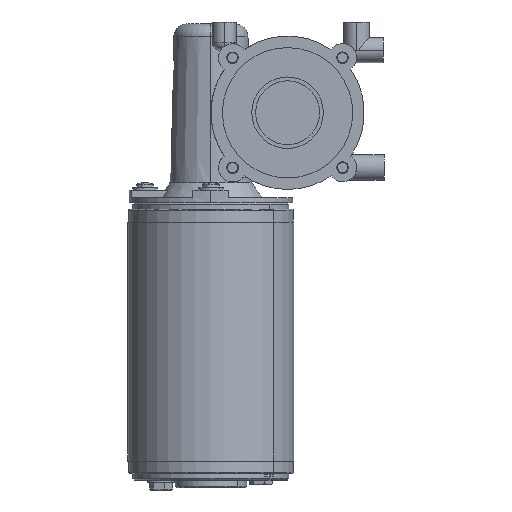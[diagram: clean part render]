
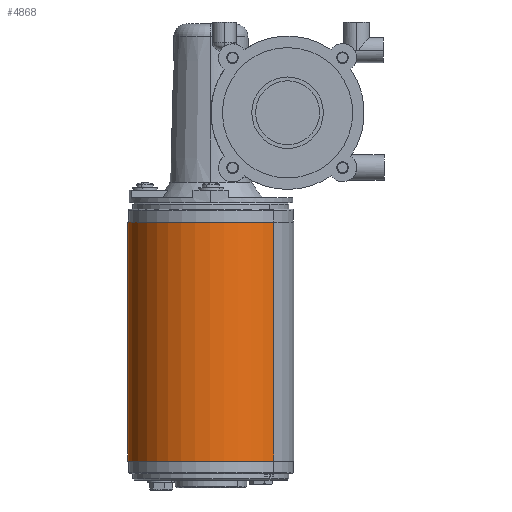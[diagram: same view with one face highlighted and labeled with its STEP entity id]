
A CAD part, left-side view. The second image highlights one B-rep face of the part: STEP entity #4868.
In plain terms, the highlighted cylindrical face has radius 32.5 mm (diameter 65 mm), a partial arc.
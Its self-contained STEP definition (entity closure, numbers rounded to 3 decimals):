
#519 = VECTOR ( 'NONE', #2206, 1000. ) ;
#1063 = EDGE_CURVE ( 'NONE', #6862, #7138, #3050, .T. ) ;
#1697 = ORIENTED_EDGE ( 'NONE', *, *, #8293, .F. ) ;
#2206 = DIRECTION ( 'NONE',  ( 0., 0., 1. ) ) ;
#2609 = CARTESIAN_POINT ( 'NONE',  ( 0., 0., -93.5 ) ) ;
#2735 = DIRECTION ( 'NONE',  ( 0., 0., -1. ) ) ;
#3030 = ORIENTED_EDGE ( 'NONE', *, *, #8426, .T. ) ;
#3050 = LINE ( 'NONE', #7931, #519 ) ;
#3447 = LINE ( 'NONE', #6235, #5458 ) ;
#3486 = DIRECTION ( 'NONE',  ( -1., 0., 0. ) ) ;
#3668 = DIRECTION ( 'NONE',  ( 0., 0., 1. ) ) ;
#3682 = CIRCLE ( 'NONE', #8680, 32.5 ) ;
#4011 = CARTESIAN_POINT ( 'NONE',  ( -32.5, 0., 0. ) ) ;
#4791 = VERTEX_POINT ( 'NONE', #9600 ) ;
#4868 = ADVANCED_FACE ( 'NONE', ( #10731 ), #5398, .T. ) ;
#5398 = CYLINDRICAL_SURFACE ( 'NONE', #6697, 32.5 ) ;
#5458 = VECTOR ( 'NONE', #3668, 1000. ) ;
#5618 = CARTESIAN_POINT ( 'NONE',  ( 0., 0., -93.5 ) ) ;
#5658 = DIRECTION ( 'NONE',  ( 1., 0., 0. ) ) ;
#6235 = CARTESIAN_POINT ( 'NONE',  ( -32.5, 0., -93.5 ) ) ;
#6493 = DIRECTION ( 'NONE',  ( 0., 0., 1. ) ) ;
#6697 = AXIS2_PLACEMENT_3D ( 'NONE', #5618, #6493, #5658 ) ;
#6804 = ORIENTED_EDGE ( 'NONE', *, *, #1063, .F. ) ;
#6822 = CIRCLE ( 'NONE', #10797, 32.5 ) ;
#6862 = VERTEX_POINT ( 'NONE', #8748 ) ;
#7138 = VERTEX_POINT ( 'NONE', #9155 ) ;
#7876 = CARTESIAN_POINT ( 'NONE',  ( 0., 0., 0. ) ) ;
#7896 = EDGE_LOOP ( 'NONE', ( #1697, #3030, #10514, #6804 ) ) ;
#7931 = CARTESIAN_POINT ( 'NONE',  ( 32.5, 0., -93.5 ) ) ;
#8293 = EDGE_CURVE ( 'NONE', #4791, #6862, #6822, .T. ) ;
#8426 = EDGE_CURVE ( 'NONE', #4791, #9186, #3447, .T. ) ;
#8596 = DIRECTION ( 'NONE',  ( 0., 0., -1. ) ) ;
#8680 = AXIS2_PLACEMENT_3D ( 'NONE', #7876, #2735, #8730 ) ;
#8730 = DIRECTION ( 'NONE',  ( -1., 0., 0. ) ) ;
#8748 = CARTESIAN_POINT ( 'NONE',  ( 32.5, 0., -93.5 ) ) ;
#9155 = CARTESIAN_POINT ( 'NONE',  ( 32.5, 0., 0. ) ) ;
#9186 = VERTEX_POINT ( 'NONE', #4011 ) ;
#9600 = CARTESIAN_POINT ( 'NONE',  ( -32.5, 0., -93.5 ) ) ;
#10265 = EDGE_CURVE ( 'NONE', #9186, #7138, #3682, .T. ) ;
#10514 = ORIENTED_EDGE ( 'NONE', *, *, #10265, .T. ) ;
#10731 = FACE_OUTER_BOUND ( 'NONE', #7896, .T. ) ;
#10797 = AXIS2_PLACEMENT_3D ( 'NONE', #2609, #8596, #3486 ) ;
